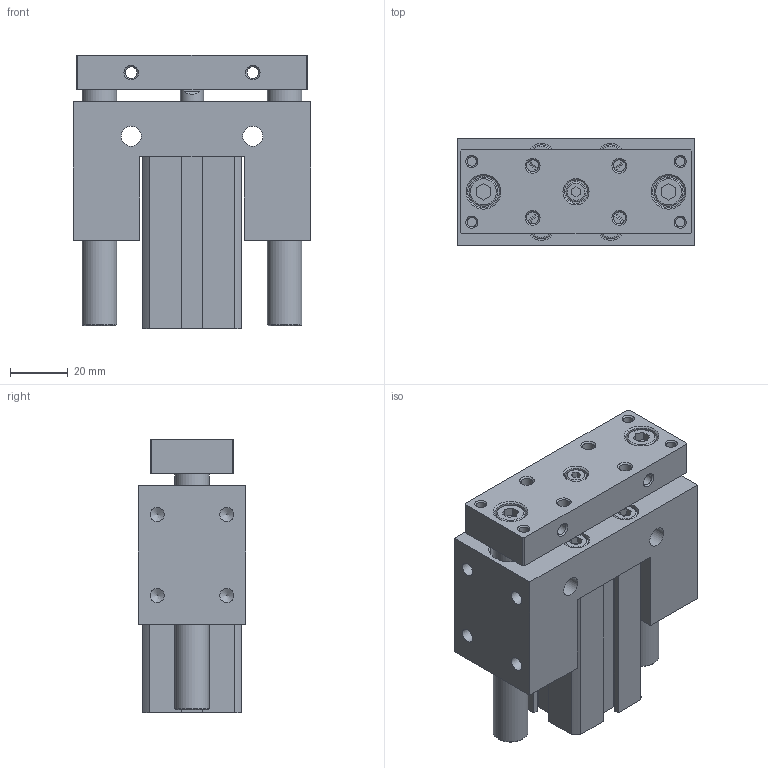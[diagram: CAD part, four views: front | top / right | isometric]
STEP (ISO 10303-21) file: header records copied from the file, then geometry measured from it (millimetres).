
FILE_DESCRIPTION((''),'2;1');
FILE_NAME('I:\3D電子目錄\氣缸\JCB\JCB\JCB20-S\JCB20x30-S.stp','2007-08-21T18:27:19',('Administrator'),(''),'Autodesk Inventor 11','Autodesk Inventor 11','');
FILE_SCHEMA(('AUTOMOTIVE_DESIGN { 1 0 10303 214 1 1 1 1 }'));
Length unit declared in the file: millimetre
Products named in the file (1): JCB20
Bounding box: 82 x 37 x 94.5 mm (x, y, z)
Volume: 185585.8 mm3; surface area: 60096.5 mm2
Topology: 5 solids, 5 shells, 293 faces, 643 edges, 415 vertices
Faces by surface type: plane 150, bspline 53, cylinder 45, cone 37, torus 8
Full cylindrical faces by diameter (mm): 1.5 x2, 4.3 x4, 4.917 x4, 7 x9, 8 x1, 8.5 x4, 9 x1, 10 x2, 12 x2, 13 x2, 14 x2, 22 x4, 23.2 x2
Entity records: 7875 total; most frequent: CARTESIAN_POINT 1985, DIRECTION 1184, ORIENTED_EDGE 992, EDGE_LOOP 504, EDGE_CURVE 496, AXIS2_PLACEMENT_3D 447, VERTEX_POINT 394, FACE_OUTER_BOUND 293
